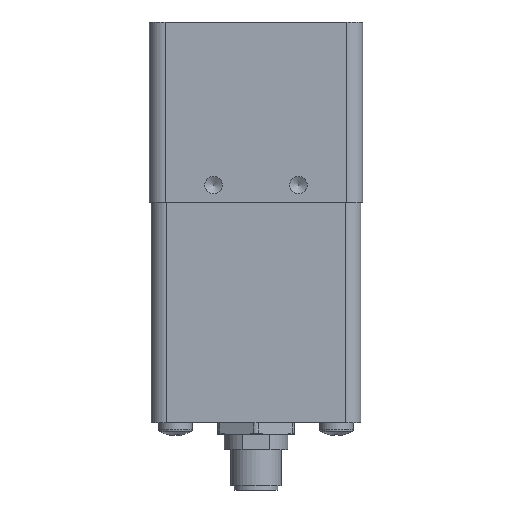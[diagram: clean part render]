
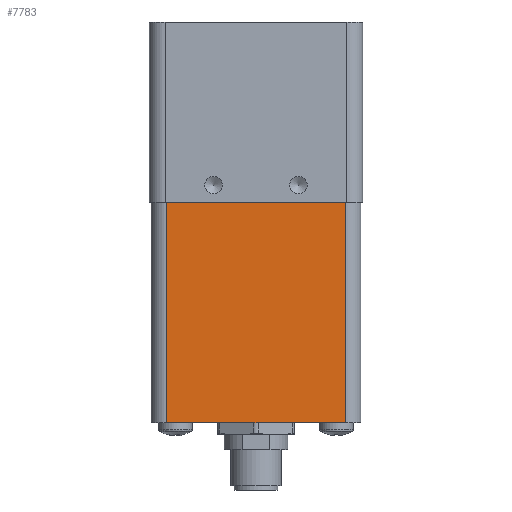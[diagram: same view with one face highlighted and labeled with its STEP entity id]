
A CAD part, front view. The second image highlights one B-rep face of the part: STEP entity #7783.
In plain terms, the highlighted planar face has unit normal (0, -1, 0).
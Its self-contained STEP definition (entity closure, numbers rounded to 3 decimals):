
#7718=CARTESIAN_POINT('',(4.175,0.425,-72.5));
#7719=VERTEX_POINT('',#7718);
#7727=CARTESIAN_POINT('',(4.175,0.425,-20.5));
#7728=VERTEX_POINT('',#7727);
#7729=CARTESIAN_POINT('',(4.175,0.425,-72.5));
#7730=DIRECTION('',(0.0,0.0,1.0));
#7731=VECTOR('',#7730,52.);
#7732=LINE('',#7729,#7731);
#7733=EDGE_CURVE('',#7719,#7728,#7732,.T.);
#7753=CARTESIAN_POINT('',(0.425,0.425,-69.4));
#7754=DIRECTION('',(0.0,-1.0,0.0));
#7755=DIRECTION('',(0.0,0.0,-1.0));
#7756=AXIS2_PLACEMENT_3D('',#7753,#7754,#7755);
#7757=PLANE('',#7756);
#7758=ORIENTED_EDGE('',*,*,#7733,.F.);
#7759=CARTESIAN_POINT('',(46.175,0.425,-72.5));
#7760=VERTEX_POINT('',#7759);
#7761=CARTESIAN_POINT('',(4.175,0.425,-72.5));
#7762=DIRECTION('',(1.0,0.0,0.0));
#7763=VECTOR('',#7762,42.0);
#7764=LINE('',#7761,#7763);
#7765=EDGE_CURVE('',#7719,#7760,#7764,.T.);
#7766=ORIENTED_EDGE('',*,*,#7765,.T.);
#7767=CARTESIAN_POINT('',(46.175,0.425,-20.5));
#7768=VERTEX_POINT('',#7767);
#7769=CARTESIAN_POINT('',(46.175,0.425,-20.5));
#7770=DIRECTION('',(0.0,0.0,-1.0));
#7771=VECTOR('',#7770,52.);
#7772=LINE('',#7769,#7771);
#7773=EDGE_CURVE('',#7768,#7760,#7772,.T.);
#7774=ORIENTED_EDGE('',*,*,#7773,.F.);
#7775=CARTESIAN_POINT('',(4.175,0.425,-20.5));
#7776=DIRECTION('',(1.0,0.0,0.0));
#7777=VECTOR('',#7776,42.0);
#7778=LINE('',#7775,#7777);
#7779=EDGE_CURVE('',#7728,#7768,#7778,.T.);
#7780=ORIENTED_EDGE('',*,*,#7779,.F.);
#7781=EDGE_LOOP('',(#7758,#7766,#7774,#7780));
#7782=FACE_OUTER_BOUND('',#7781,.T.);
#7783=ADVANCED_FACE('',(#7782),#7757,.T.);
